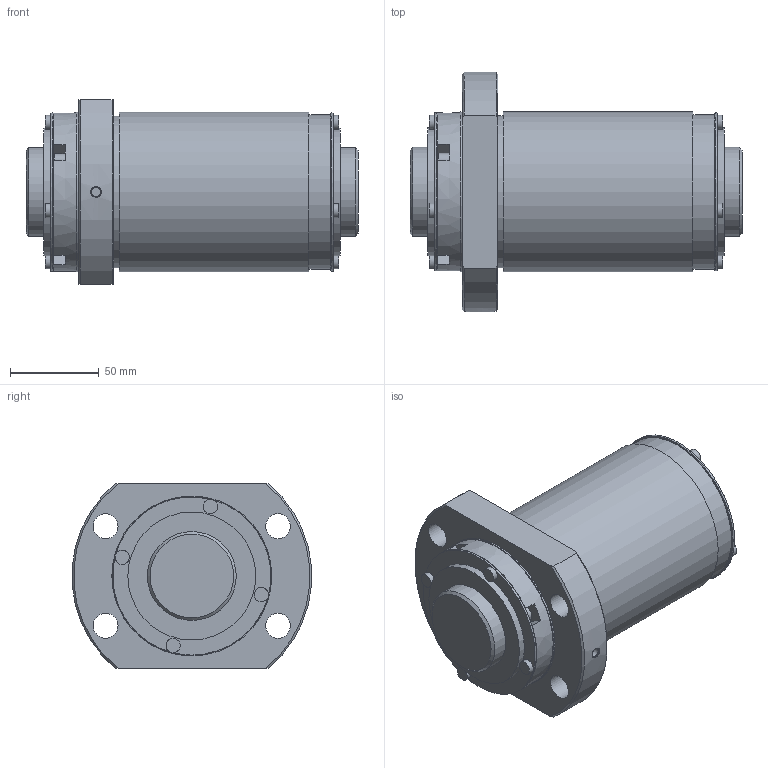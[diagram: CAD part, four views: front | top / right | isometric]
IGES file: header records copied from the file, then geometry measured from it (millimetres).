
Start section: Data from Parasolid IGES Translator 26.0.171, Copyright(c) 2006 Siemens PLM Software. All Rights Reserved.
Global section: file name: BLK5050-2.8ZZG1+186.8LC3_0_1300.igs; native system: By Siemens PLM Incorporated; preprocessor: XPlus GENERIC/IGES 26.0.171; author: Noname; organization: Noname; date: 20250116.070517; units: millimetre
Bounding box: 186.8 x 134.78 x 104 mm (x, y, z)
Surface area: 137352.9 mm2 (no closed solid volume)
Topology: 0 solids, 0 shells, 156 faces, 724 edges, 661 vertices
Faces by surface type: extrusion 95, revolution 61
